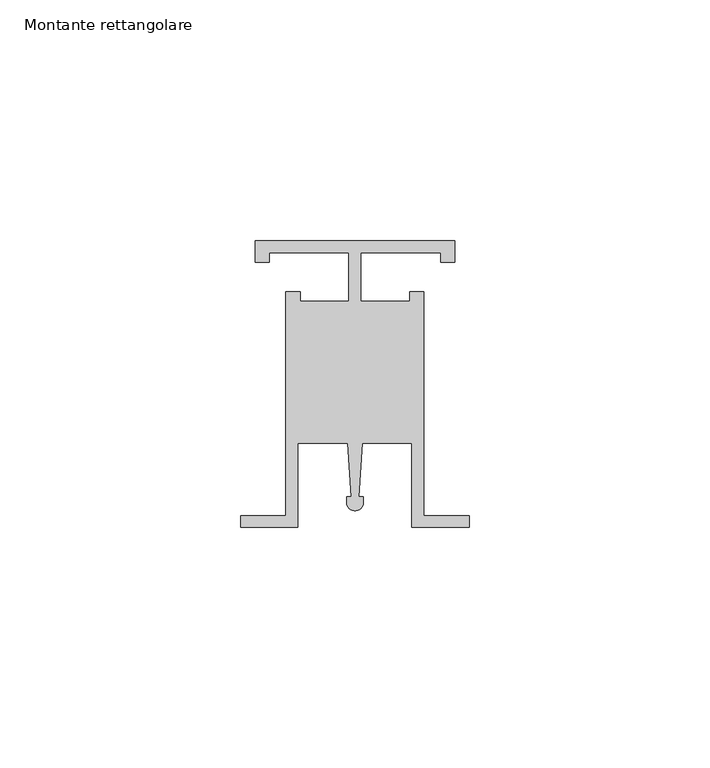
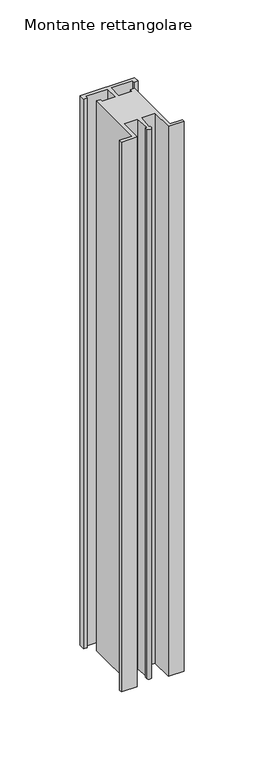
"""IFC4 building model written with IfcOpenShell, lengths in millimetres: member geometry, Montante rettangolare : Verde Profilo's Uprights."""

import ifcopenshell
import ifcopenshell.guid

model = None  # the IFC model being written
_history = None  # IfcOwnerHistory: only IFC2X3 demands one
_inside = {}  # id of a spatial element -> (the spatial element, [elements in it])
_under = {}  # id of a project, library or spatial element -> (it, [spatial elements below it])
_declared = {}  # id of a project -> (the project, [libraries it declares])
_typed = {}  # id of a type object -> (the type object, [elements of that type])
_made_of = {}  # id of a material, layer set ... -> (it, [elements and type objects made of it])


def new_model(schema):
    """Start an empty IFC model of exactly this schema.

    Asked for "IFC4X3", IfcOpenShell would pick the latest addendum, in which some entities
    have other attributes; the version numbers below select the first issue.
    IFC2X3 requires an IfcOwnerHistory on every rooted entity: one is made here for all.
    """
    global model, _history
    if schema == "IFC4X3":
        model = ifcopenshell.file(schema_version=(4, 3, 0, 0))
    else:
        model = ifcopenshell.file(schema=schema)
    _inside.clear()
    _under.clear()
    _declared.clear()
    _typed.clear()
    _made_of.clear()
    _history = None
    if model.schema == "IFC2X3":
        org = make("IfcOrganization", Name="unknown")
        user = make(
            "IfcPersonAndOrganization",
            ThePerson=make("IfcPerson", FamilyName="unknown"),
            TheOrganization=org,
        )
        app = make(
            "IfcApplication",
            ApplicationDeveloper=org,
            Version="unknown",
            ApplicationFullName="unknown",
            ApplicationIdentifier="unknown",
        )
        _history = make(
            "IfcOwnerHistory",
            OwningUser=user,
            OwningApplication=app,
            ChangeAction="ADDED",
            CreationDate=0,
        )
    return model


def make(cls, **values):
    """One entity of the class cls with the attributes given. An attribute that is None is left unset."""
    return model.create_entity(
        cls, **{name: value for name, value in values.items() if value is not None}
    )


def rooted(cls, **values):
    """An entity with a GlobalId (a new one), such as an element, a storey or a relation."""
    return make(cls, GlobalId=ifcopenshell.guid.new(), OwnerHistory=_history, **values)


def si_unit(unit_type, name, prefix=None):
    """IfcSIUnit, for example si_unit("LENGTHUNIT", "METRE", prefix="MILLI")."""
    return make("IfcSIUnit", UnitType=unit_type, Prefix=prefix, Name=name)


def assignment(units):
    """IfcUnitAssignment: the units of a project."""
    return None if units is None else make("IfcUnitAssignment", Units=units)


def point(xyz):
    """IfcCartesianPoint."""
    return None if xyz is None else make("IfcCartesianPoint", Coordinates=xyz)


def direction(xyz):
    """IfcDirection."""
    return None if xyz is None else make("IfcDirection", DirectionRatios=xyz)


def frame(location, z_axis=None, x_axis=None):
    """IfcAxis2Placement3D, a coordinate frame: its origin and axes. An axis left out is left unset."""
    return make(
        "IfcAxis2Placement3D",
        Location=point(location),
        Axis=direction(z_axis),
        RefDirection=direction(x_axis),
    )


def frame_2d(location, x_axis=None):
    """IfcAxis2Placement2D, a coordinate frame in the plane: its origin and x axis."""
    return make(
        "IfcAxis2Placement2D", Location=point(location), RefDirection=direction(x_axis)
    )


def origin():
    """The frame at (0, 0, 0) with its axes left unset."""
    return frame((0.0, 0.0, 0.0))


def place(relative_to, where):
    """IfcLocalPlacement: puts the frame where relative to a parent placement (None: the world)."""
    return make(
        "IfcLocalPlacement", PlacementRelTo=relative_to, RelativePlacement=where
    )


def context(
    kind, dimensions, precision=None, world=None, true_north=None, identifier=None
):
    """IfcGeometricRepresentationContext, for example the 3D "Model" context."""
    return make(
        "IfcGeometricRepresentationContext",
        ContextIdentifier=identifier,
        ContextType=kind,
        CoordinateSpaceDimension=dimensions,
        Precision=precision,
        WorldCoordinateSystem=world,
        TrueNorth=true_north,
    )


def project(units=None, contexts=None):
    """IfcProject with its units and contexts."""
    return rooted(
        "IfcProject",
        Name="project",
        RepresentationContexts=contexts,
        UnitsInContext=assignment(units),
    )


def spatial(cls, under=None, at=None, **own):
    """A site, building, storey or space (cls), placed at a placement, below another one or the project."""
    s = rooted(cls, ObjectPlacement=at, **own)
    if under is not None:
        _under.setdefault(under.id(), (under, []))[1].append(s)
    return s


def polyline(points):
    """IfcPolyline through the points."""
    return make("IfcPolyline", Points=[point(p) for p in points])


def circle_curve(where, radius):
    """IfcCircle in the frame where."""
    return make("IfcCircle", Position=where, Radius=radius)


def trimmed(basis, trim1, trim2, sense, master):
    """IfcTrimmedCurve: the piece of a basis curve between two trims."""
    return make(
        "IfcTrimmedCurve",
        BasisCurve=basis,
        Trim1=trim1,
        Trim2=trim2,
        SenseAgreement=sense,
        MasterRepresentation=master,
    )


def segment(curve, same_sense, transition):
    """IfcCompositeCurveSegment."""
    return make(
        "IfcCompositeCurveSegment",
        Transition=transition,
        SameSense=same_sense,
        ParentCurve=curve,
    )


def composite_curve(segments, self_intersect=None):
    """IfcCompositeCurve: segments joined end to end."""
    return make("IfcCompositeCurve", Segments=segments, SelfIntersect=self_intersect)


def outline(outer, holes=None, kind="AREA"):
    """IfcArbitraryClosedProfileDef: a profile drawn as a closed curve; with holes, ...WithVoids."""
    if holes is None:
        return make("IfcArbitraryClosedProfileDef", ProfileType=kind, OuterCurve=outer)
    return make(
        "IfcArbitraryProfileDefWithVoids",
        ProfileType=kind,
        OuterCurve=outer,
        InnerCurves=holes,
    )


def extrude(swept, where, along, depth):
    """IfcExtrudedAreaSolid: the profile swept, set in the frame where, extruded along a direction by depth."""
    return make(
        "IfcExtrudedAreaSolid",
        SweptArea=swept,
        Position=where,
        ExtrudedDirection=direction(along),
        Depth=depth,
    )


def shape(context_of_items, identifier, shape_type, items):
    """IfcShapeRepresentation: the items that make up one representation, for example the "Body"."""
    return make(
        "IfcShapeRepresentation",
        ContextOfItems=context_of_items,
        RepresentationIdentifier=identifier,
        RepresentationType=shape_type,
        Items=items,
    )


def source(mapping_origin, context_of_items, identifier, shape_type, items):
    """IfcRepresentationMap: a shape defined once, which mapped items show again and again."""
    return make(
        "IfcRepresentationMap",
        MappingOrigin=mapping_origin,
        MappedRepresentation=shape(context_of_items, identifier, shape_type, items),
    )


def transform(
    local_origin,
    x_axis=None,
    y_axis=None,
    z_axis=None,
    scale=None,
    scale2=None,
    scale3=None,
    uniform=True,
):
    """IfcCartesianTransformationOperator3D, or its non-uniform kind. x_axis, y_axis, z_axis: its Axis1, 2, 3."""
    if uniform:
        return make(
            "IfcCartesianTransformationOperator3D",
            Axis1=direction(x_axis),
            Axis2=direction(y_axis),
            LocalOrigin=point(local_origin),
            Scale=scale,
            Axis3=direction(z_axis),
        )
    return make(
        "IfcCartesianTransformationOperator3DnonUniform",
        Axis1=direction(x_axis),
        Axis2=direction(y_axis),
        LocalOrigin=point(local_origin),
        Scale=scale,
        Axis3=direction(z_axis),
        Scale2=scale2,
        Scale3=scale3,
    )


def mapped(mapping_source, mapping_target):
    """IfcMappedItem: shows the shape of a source again, moved by a transform."""
    return make(
        "IfcMappedItem", MappingSource=mapping_source, MappingTarget=mapping_target
    )


def made_of(thing, what):
    """Note that an element or type object is made of a material, layer set ...; save() writes the relation."""
    if what is not None:
        _made_of.setdefault(what.id(), (what, []))[1].append(thing)
    return thing


def element(
    cls,
    number,
    at=None,
    inside=None,
    cuts=None,
    type_object=None,
    material=None,
    context=None,
    identifier="Body",
    shape_type=None,
    held_by="IfcProductDefinitionShape",
    body=None,
    shapes=None,
    **own,
):
    """One element of the class cls, such as IfcWall. Its Tag is "e" and its number.

    at: its placement. inside: the storey or other place that contains it. cuts: it is an
    opening in that element (IfcRelVoidsElement). A single representation is given by context,
    identifier, shape_type and body (its items); several are given by shapes. held_by: the class
    of the entity that holds the representations. save() writes the other relations.
    """
    e = rooted(cls, Tag="e%d" % number, ObjectPlacement=at, **own)
    if body is not None:
        shapes = [shape(context, identifier, shape_type, body)]
    if shapes is not None:
        e.Representation = make(held_by, Representations=shapes)
    if inside is not None:
        _inside.setdefault(inside.id(), (inside, []))[1].append(e)
    if cuts is not None:
        rooted(
            "IfcRelVoidsElement", RelatingBuildingElement=cuts, RelatedOpeningElement=e
        )
    if type_object is not None:
        _typed.setdefault(type_object.id(), (type_object, []))[1].append(e)
    return made_of(e, material)


def aggregate(whole, parts):
    """IfcRelAggregates: a whole, such as a stair, and the parts it consists of."""
    return rooted("IfcRelAggregates", RelatingObject=whole, RelatedObjects=parts)


def save(model, path):
    """Write the relations noted so far, then the file.

    IfcRelAggregates (storeys below a building ...), IfcRelContainedInSpatialStructure (elements
    in a storey), IfcRelDefinesByType, IfcRelAssociatesMaterial and IfcRelDeclares: one each for
    every whole, place, type object, material and project.
    """
    for whole, parts in _under.values():
        aggregate(whole, parts)
    for where, things in _inside.values():
        rooted(
            "IfcRelContainedInSpatialStructure",
            RelatedElements=things,
            RelatingStructure=where,
        )
    for kind, things in _typed.values():
        rooted("IfcRelDefinesByType", RelatedObjects=things, RelatingType=kind)
    for what, things in _made_of.values():
        rooted("IfcRelAssociatesMaterial", RelatedObjects=things, RelatingMaterial=what)
    for by, libraries in _declared.values():
        rooted("IfcRelDeclares", RelatingContext=by, RelatedDefinitions=libraries)
    model.write(path)


def montante_rettangolare_ba41fc1c(model_context):
    return source(origin(), model_context, "Body", "SweptSolid", [
        extrude(outline(composite_curve([segment(polyline([(-44.5191881, 0.0), (-3.0, 0.0), (-3.0, -4.4643434), (-5.9763281, -4.4643434), (-5.9763281, -2.4801246), (-22.5192241, -2.4801246), (-22.5192241, -12.5992217), (-12.4008018, -12.5992217), (-12.4008018, -10.6150029), (-9.4244736, -10.6150029), (-9.4244736, -57.1992491), (0.0, -57.1992491), (0.0, -59.5229914), (-11.9045983, -59.5229914), (-11.9045983, -42.1200913), (-22.2878429, -42.1200913), (-23.0155567, -53.2310496), (-22.0219337, -53.2310496), (-22.0219337, -54.4070013)]), True, "CONTINUOUS"), segment(trimmed(circle_curve(frame_2d((-23.7595941, -54.4070013)), 1.7376604), [point((-22.0219337, -54.4070013))], [point((-25.4972545, -54.4070013))], False, "CARTESIAN"), True, "CONTINUOUS"), segment(polyline([(-25.4972545, -54.4070013), (-25.4972545, -53.2310496), (-24.5036314, -53.2310496), (-25.2313452, -42.1200913), (-35.6145898, -42.1200913), (-35.6145898, -59.5229914), (-47.5191881, -59.5229914), (-47.5191881, -57.1992491), (-38.0947145, -57.1992491), (-38.0947145, -10.6150029), (-35.1183863, -10.6150029), (-35.1183863, -12.5992217), (-24.999964, -12.5992217), (-24.999964, -2.4801246), (-41.54286, -2.4801246), (-41.54286, -4.4643434), (-44.5191881, -4.4643434), (-44.5191881, 0.0)]), True, "CONTINUOUS")], self_intersect=False)), frame((0.0, 0.0, -440.3770182), z_axis=(0.0, 0.0, 1.0), x_axis=(1.0, 0.0, 0.0)), (0.0, 0.0, 1.0), 440.3770182),
    ])


if __name__ == "__main__":
    model = new_model("IFC4")
    model_context = context("Model", 3, world=origin())
    ifc_project = project(units=[si_unit("LENGTHUNIT", "METRE", prefix="MILLI")], contexts=[model_context])
    site = spatial("IfcSite", under=ifc_project)
    building = spatial("IfcBuilding", under=site)
    placement = place(None, origin())
    montante_rettangolare_shape = montante_rettangolare_ba41fc1c(model_context)
    element("IfcMember", 1, ObjectType="Montante rettangolare : Verde Profilo's Uprights", at=placement, inside=building, context=model_context, shape_type="MappedRepresentation", body=[
        mapped(montante_rettangolare_shape, transform((0.0, 0.0, 0.0), x_axis=(1.0, 0.0, 0.0), y_axis=(0.0, 1.0, 0.0), z_axis=(0.0, 0.0, 1.0))),
    ])
    save(model, "model.ifc")
